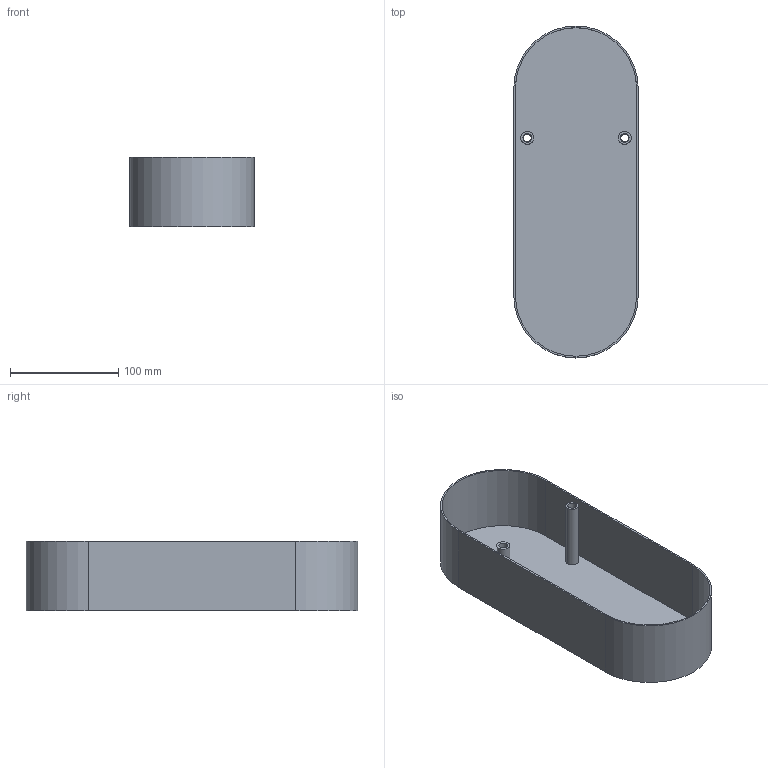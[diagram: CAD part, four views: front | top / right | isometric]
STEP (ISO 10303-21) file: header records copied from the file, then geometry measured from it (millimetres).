
FILE_DESCRIPTION (( 'STEP AP203' ), '1' );
FILE_NAME ('084.809.006.STEP', '2015-02-11T08:44:09', ( '' ), ( '' ), 'SwSTEP 2.0', 'SolidWorks 2012', '' );
FILE_SCHEMA (( 'CONFIG_CONTROL_DESIGN' ));
Length unit declared in the file: millimetre
Products named in the file (1): 084.809.006
Bounding box: 115 x 306.5 x 64 mm (x, y, z)
Volume: 125687.4 mm3; surface area: 166147.6 mm2
Topology: 1 solids, 1 shells, 27 faces, 60 edges, 40 vertices
Faces by surface type: cylinder 16, plane 11
Entity records: 851 total; most frequent: DIRECTION 148, CARTESIAN_POINT 128, ORIENTED_EDGE 120, EDGE_CURVE 60, AXIS2_PLACEMENT_3D 60, VERTEX_POINT 40, EDGE_LOOP 36, CIRCLE 32
